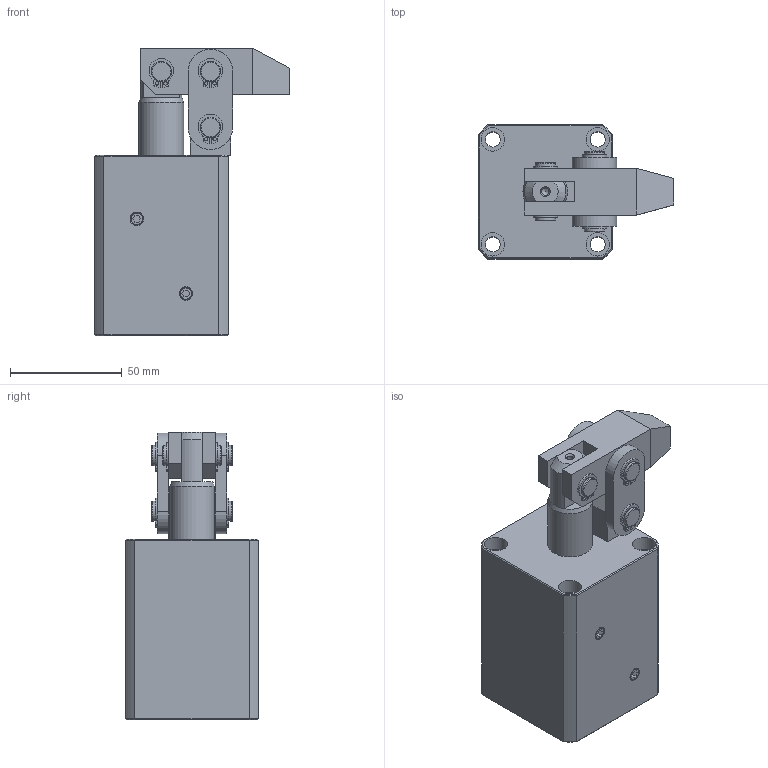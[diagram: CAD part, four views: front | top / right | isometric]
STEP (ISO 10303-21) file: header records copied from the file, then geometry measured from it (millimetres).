
FILE_DESCRIPTION(/* description */ ('Unknown'),/* implementation_level */ '2;1');
FILE_NAME(/* name */ 'HLB-M32-A',/* time_stamp */ '2025-06-03T23:59:37+08:00',/* author */ ('Unknown'),/* organization */ ('Unknown'),/* preprocessor_version */ 'ST-DEVELOPER v16.7',/* originating_system */ 'DEX',/* authorisation */ $);
FILE_SCHEMA (('AUTOMOTIVE_DESIGN {1 0 10303 214 3 1 1}'));
Length unit declared in the file: millimetre
Products named in the file (8): HLB-M32-A; HLB-M32-CYLINDER; HLB-32-墊; HLB-32-A; HLB-3202-AXLE CENTRE; HLB-32-PINµu-; HLB-32-PINªø·; HLB-32-C扣2
Assembly tree (14 placements, depth 2):
  HLB-M32-A
    HLB-M32-CYLINDER
    HLB-32-墊  x2
    HLB-32-A
    HLB-3202-AXLE CENTRE
    HLB-32-PINµu-
    HLB-32-PINªø·  x2
    HLB-32-C扣2  x6
Bounding box: 87.5 x 60 x 129 mm (x, y, z)
Volume: 305267.3 mm3; surface area: 65582.1 mm2
Topology: 14 solids, 14 shells, 277 faces, 651 edges, 430 vertices
Faces by surface type: plane 133, cylinder 113, cone 23, torus 8
Full cylindrical faces by diameter (mm): 1.575 x12, 3.2 x1, 4.1 x2, 5 x2, 6.8 x4, 8.5 x10, 9 x14, 10 x2, 10.5 x4, 20 x2, 32 x2
Entity records: 4782 total; most frequent: CARTESIAN_POINT 821, DIRECTION 813, ORIENTED_EDGE 634, AXIS2_PLACEMENT_3D 329, EDGE_CURVE 317, FACE_BOUND 286, EDGE_LOOP 283, VERTEX_POINT 239
